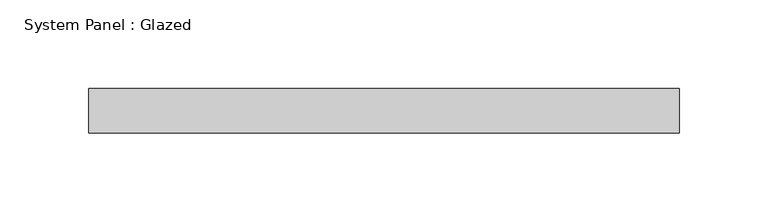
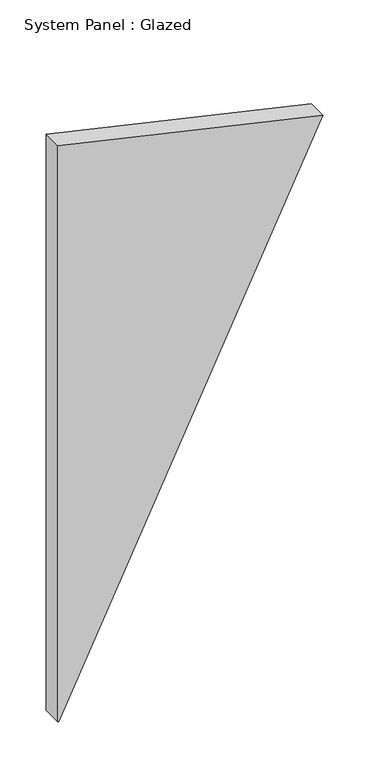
"""IFC4 building model written with IfcOpenShell, lengths in millimetres: plate geometry, System Panel : Glazed."""

import ifcopenshell
import ifcopenshell.guid

model = None  # the IFC model being written
_history = None  # IfcOwnerHistory: only IFC2X3 demands one
_inside = {}  # id of a spatial element -> (the spatial element, [elements in it])
_under = {}  # id of a project, library or spatial element -> (it, [spatial elements below it])
_declared = {}  # id of a project -> (the project, [libraries it declares])
_typed = {}  # id of a type object -> (the type object, [elements of that type])
_made_of = {}  # id of a material, layer set ... -> (it, [elements and type objects made of it])


def new_model(schema):
    """Start an empty IFC model of exactly this schema.

    Asked for "IFC4X3", IfcOpenShell would pick the latest addendum, in which some entities
    have other attributes; the version numbers below select the first issue.
    IFC2X3 requires an IfcOwnerHistory on every rooted entity: one is made here for all.
    """
    global model, _history
    if schema == "IFC4X3":
        model = ifcopenshell.file(schema_version=(4, 3, 0, 0))
    else:
        model = ifcopenshell.file(schema=schema)
    _inside.clear()
    _under.clear()
    _declared.clear()
    _typed.clear()
    _made_of.clear()
    _history = None
    if model.schema == "IFC2X3":
        org = make("IfcOrganization", Name="unknown")
        user = make(
            "IfcPersonAndOrganization",
            ThePerson=make("IfcPerson", FamilyName="unknown"),
            TheOrganization=org,
        )
        app = make(
            "IfcApplication",
            ApplicationDeveloper=org,
            Version="unknown",
            ApplicationFullName="unknown",
            ApplicationIdentifier="unknown",
        )
        _history = make(
            "IfcOwnerHistory",
            OwningUser=user,
            OwningApplication=app,
            ChangeAction="ADDED",
            CreationDate=0,
        )
    return model


def make(cls, **values):
    """One entity of the class cls with the attributes given. An attribute that is None is left unset."""
    return model.create_entity(
        cls, **{name: value for name, value in values.items() if value is not None}
    )


def rooted(cls, **values):
    """An entity with a GlobalId (a new one), such as an element, a storey or a relation."""
    return make(cls, GlobalId=ifcopenshell.guid.new(), OwnerHistory=_history, **values)


def si_unit(unit_type, name, prefix=None):
    """IfcSIUnit, for example si_unit("LENGTHUNIT", "METRE", prefix="MILLI")."""
    return make("IfcSIUnit", UnitType=unit_type, Prefix=prefix, Name=name)


def assignment(units):
    """IfcUnitAssignment: the units of a project."""
    return None if units is None else make("IfcUnitAssignment", Units=units)


def point(xyz):
    """IfcCartesianPoint."""
    return None if xyz is None else make("IfcCartesianPoint", Coordinates=xyz)


def direction(xyz):
    """IfcDirection."""
    return None if xyz is None else make("IfcDirection", DirectionRatios=xyz)


def frame(location, z_axis=None, x_axis=None):
    """IfcAxis2Placement3D, a coordinate frame: its origin and axes. An axis left out is left unset."""
    return make(
        "IfcAxis2Placement3D",
        Location=point(location),
        Axis=direction(z_axis),
        RefDirection=direction(x_axis),
    )


def origin():
    """The frame at (0, 0, 0) with its axes left unset."""
    return frame((0.0, 0.0, 0.0))


def place(relative_to, where):
    """IfcLocalPlacement: puts the frame where relative to a parent placement (None: the world)."""
    return make(
        "IfcLocalPlacement", PlacementRelTo=relative_to, RelativePlacement=where
    )


def context(
    kind, dimensions, precision=None, world=None, true_north=None, identifier=None
):
    """IfcGeometricRepresentationContext, for example the 3D "Model" context."""
    return make(
        "IfcGeometricRepresentationContext",
        ContextIdentifier=identifier,
        ContextType=kind,
        CoordinateSpaceDimension=dimensions,
        Precision=precision,
        WorldCoordinateSystem=world,
        TrueNorth=true_north,
    )


def project(units=None, contexts=None):
    """IfcProject with its units and contexts."""
    return rooted(
        "IfcProject",
        Name="project",
        RepresentationContexts=contexts,
        UnitsInContext=assignment(units),
    )


def spatial(cls, under=None, at=None, **own):
    """A site, building, storey or space (cls), placed at a placement, below another one or the project."""
    s = rooted(cls, ObjectPlacement=at, **own)
    if under is not None:
        _under.setdefault(under.id(), (under, []))[1].append(s)
    return s


def polyline(points):
    """IfcPolyline through the points."""
    return make("IfcPolyline", Points=[point(p) for p in points])


def outline(outer, holes=None, kind="AREA"):
    """IfcArbitraryClosedProfileDef: a profile drawn as a closed curve; with holes, ...WithVoids."""
    if holes is None:
        return make("IfcArbitraryClosedProfileDef", ProfileType=kind, OuterCurve=outer)
    return make(
        "IfcArbitraryProfileDefWithVoids",
        ProfileType=kind,
        OuterCurve=outer,
        InnerCurves=holes,
    )


def extrude(swept, where, along, depth):
    """IfcExtrudedAreaSolid: the profile swept, set in the frame where, extruded along a direction by depth."""
    return make(
        "IfcExtrudedAreaSolid",
        SweptArea=swept,
        Position=where,
        ExtrudedDirection=direction(along),
        Depth=depth,
    )


def shape(context_of_items, identifier, shape_type, items):
    """IfcShapeRepresentation: the items that make up one representation, for example the "Body"."""
    return make(
        "IfcShapeRepresentation",
        ContextOfItems=context_of_items,
        RepresentationIdentifier=identifier,
        RepresentationType=shape_type,
        Items=items,
    )


def source(mapping_origin, context_of_items, identifier, shape_type, items):
    """IfcRepresentationMap: a shape defined once, which mapped items show again and again."""
    return make(
        "IfcRepresentationMap",
        MappingOrigin=mapping_origin,
        MappedRepresentation=shape(context_of_items, identifier, shape_type, items),
    )


def transform(
    local_origin,
    x_axis=None,
    y_axis=None,
    z_axis=None,
    scale=None,
    scale2=None,
    scale3=None,
    uniform=True,
):
    """IfcCartesianTransformationOperator3D, or its non-uniform kind. x_axis, y_axis, z_axis: its Axis1, 2, 3."""
    if uniform:
        return make(
            "IfcCartesianTransformationOperator3D",
            Axis1=direction(x_axis),
            Axis2=direction(y_axis),
            LocalOrigin=point(local_origin),
            Scale=scale,
            Axis3=direction(z_axis),
        )
    return make(
        "IfcCartesianTransformationOperator3DnonUniform",
        Axis1=direction(x_axis),
        Axis2=direction(y_axis),
        LocalOrigin=point(local_origin),
        Scale=scale,
        Axis3=direction(z_axis),
        Scale2=scale2,
        Scale3=scale3,
    )


def mapped(mapping_source, mapping_target):
    """IfcMappedItem: shows the shape of a source again, moved by a transform."""
    return make(
        "IfcMappedItem", MappingSource=mapping_source, MappingTarget=mapping_target
    )


def made_of(thing, what):
    """Note that an element or type object is made of a material, layer set ...; save() writes the relation."""
    if what is not None:
        _made_of.setdefault(what.id(), (what, []))[1].append(thing)
    return thing


def element(
    cls,
    number,
    at=None,
    inside=None,
    cuts=None,
    type_object=None,
    material=None,
    context=None,
    identifier="Body",
    shape_type=None,
    held_by="IfcProductDefinitionShape",
    body=None,
    shapes=None,
    **own,
):
    """One element of the class cls, such as IfcWall. Its Tag is "e" and its number.

    at: its placement. inside: the storey or other place that contains it. cuts: it is an
    opening in that element (IfcRelVoidsElement). A single representation is given by context,
    identifier, shape_type and body (its items); several are given by shapes. held_by: the class
    of the entity that holds the representations. save() writes the other relations.
    """
    e = rooted(cls, Tag="e%d" % number, ObjectPlacement=at, **own)
    if body is not None:
        shapes = [shape(context, identifier, shape_type, body)]
    if shapes is not None:
        e.Representation = make(held_by, Representations=shapes)
    if inside is not None:
        _inside.setdefault(inside.id(), (inside, []))[1].append(e)
    if cuts is not None:
        rooted(
            "IfcRelVoidsElement", RelatingBuildingElement=cuts, RelatedOpeningElement=e
        )
    if type_object is not None:
        _typed.setdefault(type_object.id(), (type_object, []))[1].append(e)
    return made_of(e, material)


def aggregate(whole, parts):
    """IfcRelAggregates: a whole, such as a stair, and the parts it consists of."""
    return rooted("IfcRelAggregates", RelatingObject=whole, RelatedObjects=parts)


def save(model, path):
    """Write the relations noted so far, then the file.

    IfcRelAggregates (storeys below a building ...), IfcRelContainedInSpatialStructure (elements
    in a storey), IfcRelDefinesByType, IfcRelAssociatesMaterial and IfcRelDeclares: one each for
    every whole, place, type object, material and project.
    """
    for whole, parts in _under.values():
        aggregate(whole, parts)
    for where, things in _inside.values():
        rooted(
            "IfcRelContainedInSpatialStructure",
            RelatedElements=things,
            RelatingStructure=where,
        )
    for kind, things in _typed.values():
        rooted("IfcRelDefinesByType", RelatedObjects=things, RelatingType=kind)
    for what, things in _made_of.values():
        rooted("IfcRelAssociatesMaterial", RelatedObjects=things, RelatingMaterial=what)
    for by, libraries in _declared.values():
        rooted("IfcRelDeclares", RelatingContext=by, RelatedDefinitions=libraries)
    model.write(path)


def system_panel_glazed_f5cc77c2(model_context):
    return source(origin(), model_context, "Body", "SweptSolid", [
        extrude(outline(polyline([(0.2534176, -166.3528866), (0.0, -165.2448819), (687.0025813, 166.3528866), (763.0965383, -166.3488157), (0.2534176, -166.3528866)])), frame((0.0, -49.5, 0.0), z_axis=(0.0, 1.0, 0.0), x_axis=(0.0, 0.0, 1.0)), (0.0, 0.0, 1.0), 25.0),
    ])


if __name__ == "__main__":
    model = new_model("IFC4")
    model_context = context("Model", 3, world=origin())
    ifc_project = project(units=[si_unit("LENGTHUNIT", "METRE", prefix="MILLI")], contexts=[model_context])
    site = spatial("IfcSite", under=ifc_project)
    building = spatial("IfcBuilding", under=site)
    placement = place(None, origin())
    system_panel_glazed_shape = system_panel_glazed_f5cc77c2(model_context)
    element("IfcPlate", 1, ObjectType="System Panel : Glazed", at=placement, inside=building, context=model_context, shape_type="MappedRepresentation", body=[
        mapped(system_panel_glazed_shape, transform((0.0, 0.0, 0.0), x_axis=(1.0, 0.0, 0.0), y_axis=(0.0, 1.0, 0.0), z_axis=(0.0, 0.0, 1.0))),
    ])
    save(model, "model.ifc")
